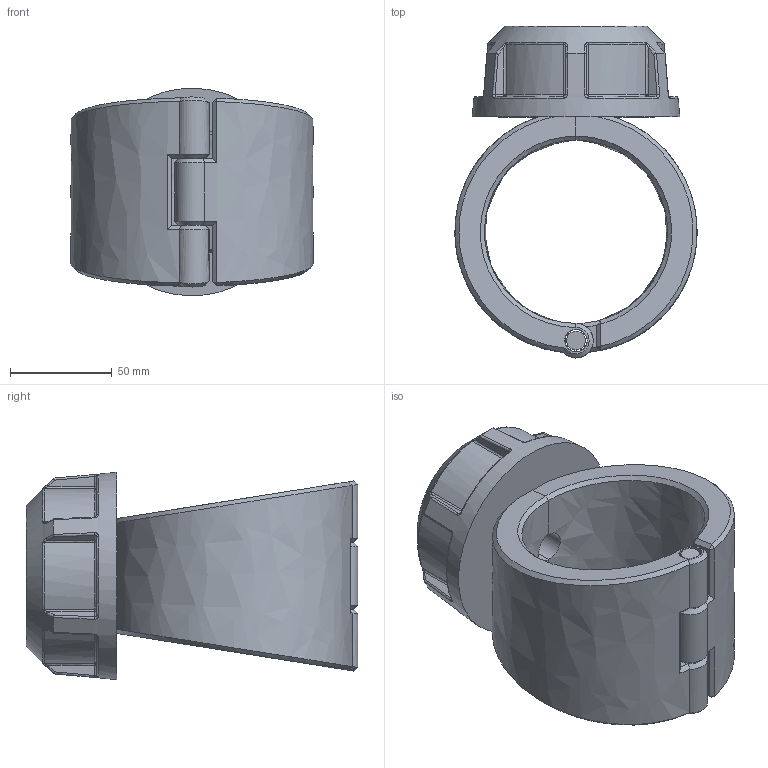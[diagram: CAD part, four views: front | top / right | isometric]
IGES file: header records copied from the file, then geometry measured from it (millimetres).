
Global section: file name: 163000090010; native system: Autodesk Inventor 2019; preprocessor: unknown; author: comp2; date: 20220203.114715; units: millimetre
Bounding box: 119 x 163 x 101.9 mm (x, y, z)
Volume: 596966.6 mm3; surface area: 97156.1 mm2
Topology: 4 solids, 4 shells, 203 faces, 486 edges, 293 vertices
Faces by surface type: bspline 203
